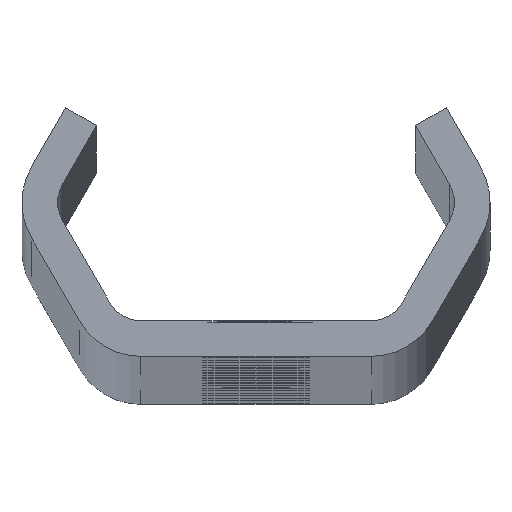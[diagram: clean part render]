
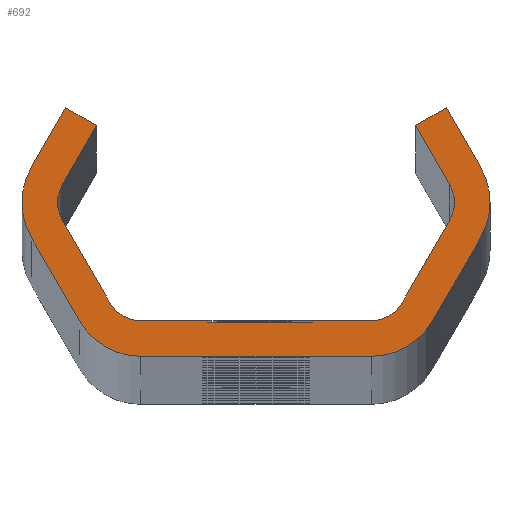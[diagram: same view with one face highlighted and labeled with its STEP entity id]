
A CAD part, top view. The second image highlights one B-rep face of the part: STEP entity #692.
In plain terms, the highlighted planar face has unit normal (0, 0, 1).
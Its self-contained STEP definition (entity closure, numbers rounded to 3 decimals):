
#692=ADVANCED_FACE('NONE',(#1922),#1923,.F.);
#1922=FACE_OUTER_BOUND('',#6201,.T.);
#1923=PLANE('',#6202);
#6201=EDGE_LOOP('',(#12679,#12680,#12681,#12682,#12683,#12684,#12685,#12686,#12687,#12688,#12689,#12690,#12691,#12692,#12693,#12694,#12695,#12696,#12697,#12698,#12699,#12700,#12701,#12702,#12703,#12704,#12705,#12706));
#6202=AXIS2_PLACEMENT_3D('',#12707,#12708,#12709);
#12679=ORIENTED_EDGE('',*,*,#16962,.F.);
#12680=ORIENTED_EDGE('',*,*,#16963,.T.);
#12681=ORIENTED_EDGE('',*,*,#16593,.T.);
#12682=ORIENTED_EDGE('',*,*,#16964,.T.);
#12683=ORIENTED_EDGE('',*,*,#16909,.T.);
#12684=ORIENTED_EDGE('',*,*,#16965,.T.);
#12685=ORIENTED_EDGE('',*,*,#16260,.T.);
#12686=ORIENTED_EDGE('',*,*,#16912,.T.);
#12687=ORIENTED_EDGE('',*,*,#16918,.T.);
#12688=ORIENTED_EDGE('',*,*,#16922,.T.);
#12689=ORIENTED_EDGE('',*,*,#16966,.T.);
#12690=ORIENTED_EDGE('',*,*,#16567,.T.);
#12691=ORIENTED_EDGE('',*,*,#16924,.T.);
#12692=ORIENTED_EDGE('',*,*,#16967,.T.);
#12693=ORIENTED_EDGE('',*,*,#16928,.T.);
#12694=ORIENTED_EDGE('',*,*,#16968,.T.);
#12695=ORIENTED_EDGE('',*,*,#16574,.T.);
#12696=ORIENTED_EDGE('',*,*,#16969,.T.);
#12697=ORIENTED_EDGE('',*,*,#16265,.T.);
#12698=ORIENTED_EDGE('',*,*,#16577,.T.);
#12699=ORIENTED_EDGE('',*,*,#16583,.T.);
#12700=ORIENTED_EDGE('',*,*,#16586,.T.);
#12701=ORIENTED_EDGE('',*,*,#16564,.T.);
#12702=ORIENTED_EDGE('',*,*,#16970,.T.);
#12703=ORIENTED_EDGE('',*,*,#16588,.T.);
#12704=ORIENTED_EDGE('',*,*,#16971,.T.);
#12705=ORIENTED_EDGE('',*,*,#16596,.T.);
#12706=ORIENTED_EDGE('',*,*,#16972,.T.);
#12707=CARTESIAN_POINT('',(0.0,0.0,2320.0));
#12708=DIRECTION('',(0.0,0.0,-1.0));
#12709=DIRECTION('',(0.0,-1.0,0.0));
#16260=EDGE_CURVE('NONE',#18117,#18121,#18123,.T.);
#16265=EDGE_CURVE('NONE',#18126,#18130,#18132,.T.);
#16564=EDGE_CURVE('NONE',#18670,#18668,#18671,.T.);
#16567=EDGE_CURVE('NONE',#18674,#18675,#18676,.T.);
#16574=EDGE_CURVE('NONE',#18688,#18686,#18689,.T.);
#16577=EDGE_CURVE('NONE',#18130,#18692,#18693,.T.);
#16583=EDGE_CURVE('NONE',#18692,#18700,#18702,.T.);
#16586=EDGE_CURVE('NONE',#18700,#18670,#18705,.T.);
#16588=EDGE_CURVE('NONE',#18707,#18708,#18709,.T.);
#16593=EDGE_CURVE('NONE',#18716,#18717,#18718,.T.);
#16596=EDGE_CURVE('NONE',#18723,#18721,#18724,.T.);
#16909=EDGE_CURVE('NONE',#19304,#19302,#19305,.T.);
#16912=EDGE_CURVE('NONE',#18121,#19308,#19309,.T.);
#16918=EDGE_CURVE('NONE',#19308,#19316,#19318,.T.);
#16922=EDGE_CURVE('NONE',#19316,#19322,#19324,.T.);
#16924=EDGE_CURVE('NONE',#18675,#19326,#19327,.T.);
#16928=EDGE_CURVE('NONE',#19332,#19333,#19334,.T.);
#16962=EDGE_CURVE('NONE',#19370,#19371,#19372,.T.);
#16963=EDGE_CURVE('NONE',#19370,#18716,#19373,.T.);
#16964=EDGE_CURVE('NONE',#18717,#19304,#19374,.T.);
#16965=EDGE_CURVE('NONE',#19302,#18117,#19375,.T.);
#16966=EDGE_CURVE('NONE',#19322,#18674,#19376,.T.);
#16967=EDGE_CURVE('NONE',#19326,#19332,#19377,.T.);
#16968=EDGE_CURVE('NONE',#19333,#18688,#19378,.T.);
#16969=EDGE_CURVE('NONE',#18686,#18126,#19379,.T.);
#16970=EDGE_CURVE('NONE',#18668,#18707,#19380,.T.);
#16971=EDGE_CURVE('NONE',#18708,#18723,#19381,.T.);
#16972=EDGE_CURVE('NONE',#18721,#19371,#19382,.T.);
#18117=VERTEX_POINT('',#20870);
#18121=VERTEX_POINT('NONE',#20875);
#18123=CIRCLE('',#20878,3.0);
#18126=VERTEX_POINT('',#20881);
#18130=VERTEX_POINT('NONE',#20886);
#18132=CIRCLE('',#20889,6.0);
#18668=VERTEX_POINT('NONE',#24107);
#18670=VERTEX_POINT('NONE',#24110);
#18671=CIRCLE('',#24111,3.0);
#18674=VERTEX_POINT('NONE',#24115);
#18675=VERTEX_POINT('NONE',#24116);
#18676=CIRCLE('',#24117,6.0);
#18686=VERTEX_POINT('NONE',#24130);
#18688=VERTEX_POINT('NONE',#24133);
#18689=LINE('',#24134,#24135);
#18692=VERTEX_POINT('NONE',#24139);
#18693=LINE('',#24140,#24141);
#18700=VERTEX_POINT('NONE',#24151);
#18702=LINE('',#24154,#24155);
#18705=LINE('',#24159,#24160);
#18707=VERTEX_POINT('NONE',#24162);
#18708=VERTEX_POINT('NONE',#24163);
#18709=LINE('',#24164,#24165);
#18716=VERTEX_POINT('NONE',#24175);
#18717=VERTEX_POINT('NONE',#24176);
#18718=LINE('',#24177,#24178);
#18721=VERTEX_POINT('NONE',#24182);
#18723=VERTEX_POINT('NONE',#24185);
#18724=LINE('',#24186,#24187);
#19302=VERTEX_POINT('NONE',#26317);
#19304=VERTEX_POINT('NONE',#26320);
#19305=LINE('',#26321,#26322);
#19308=VERTEX_POINT('NONE',#26326);
#19309=LINE('',#26327,#26328);
#19316=VERTEX_POINT('NONE',#26338);
#19318=LINE('',#26341,#26342);
#19322=VERTEX_POINT('NONE',#26347);
#19324=LINE('',#26350,#26351);
#19326=VERTEX_POINT('NONE',#26353);
#19327=LINE('',#26354,#26355);
#19332=VERTEX_POINT('NONE',#26362);
#19333=VERTEX_POINT('NONE',#26363);
#19334=LINE('',#26364,#26365);
#19370=VERTEX_POINT('NONE',#26404);
#19371=VERTEX_POINT('NONE',#26405);
#19372=LINE('',#26406,#26407);
#19373=LINE('',#26408,#26409);
#19374=CIRCLE('',#26410,3.0);
#19375=CIRCLE('',#26411,3.0);
#19376=CIRCLE('',#26412,6.0);
#19377=CIRCLE('',#26413,6.0);
#19378=CIRCLE('',#26414,6.0);
#19379=CIRCLE('',#26415,6.0);
#19380=CIRCLE('',#26416,3.0);
#19381=CIRCLE('',#26417,3.0);
#19382=LINE('',#26418,#26419);
#20870=CARTESIAN_POINT('',(-16.764,0.,2320.0));
#20875=CARTESIAN_POINT('',(-16.362,1.5,2320.0));
#20878=AXIS2_PLACEMENT_3D('',#31375,#31376,#31377);
#20881=CARTESIAN_POINT('',(19.764,0.,2320.0));
#20886=CARTESIAN_POINT('',(18.96,3.,2320.0));
#20889=AXIS2_PLACEMENT_3D('',#31383,#31384,#31385);
#24107=CARTESIAN_POINT('',(16.764,0.,2320.0));
#24110=CARTESIAN_POINT('',(16.362,1.5,2320.0));
#24111=AXIS2_PLACEMENT_3D('',#31682,#31683,#31684);
#24115=CARTESIAN_POINT('',(-19.764,0.,2320.0));
#24116=CARTESIAN_POINT('',(-18.96,-3.,2320.0));
#24117=AXIS2_PLACEMENT_3D('',#31686,#31687,#31688);
#24130=CARTESIAN_POINT('',(18.96,-3.,2320.0));
#24133=CARTESIAN_POINT('',(14.919,-10.,2320.0));
#24134=CARTESIAN_POINT('',(20.692,0.,2320.0));
#24135=VECTOR('',#31696,1000.0);
#24139=CARTESIAN_POINT('',(16.074,8.,2320.0));
#24140=CARTESIAN_POINT('',(16.074,8.,2320.0));
#24141=VECTOR('',#31698,1000.0);
#24151=CARTESIAN_POINT('',(13.475,6.5,2320.0));
#24154=CARTESIAN_POINT('',(13.475,6.5,2320.0));
#24155=VECTOR('',#31703,1000.0);
#24159=CARTESIAN_POINT('',(17.228,0.,2320.0));
#24160=VECTOR('',#31705,1000.0);
#24162=CARTESIAN_POINT('',(16.362,-1.5,2320.0));
#24163=CARTESIAN_POINT('',(12.321,-8.5,2320.0));
#24164=CARTESIAN_POINT('',(11.455,-10.0,2320.0));
#24165=VECTOR('',#31706,1000.0);
#24175=CARTESIAN_POINT('',(-4.063,-10.0,2320.0));
#24176=CARTESIAN_POINT('',(-9.723,-10.0,2320.0));
#24177=CARTESIAN_POINT('',(-11.455,-10.0,2320.0));
#24178=VECTOR('',#31710,1000.0);
#24182=CARTESIAN_POINT('',(-3.458,-10.0,2320.0));
#24185=CARTESIAN_POINT('',(9.723,-10.0,2320.0));
#24186=CARTESIAN_POINT('',(-11.455,-10.0,2320.0));
#24187=VECTOR('',#31713,1000.0);
#26317=CARTESIAN_POINT('',(-16.362,-1.5,2320.0));
#26320=CARTESIAN_POINT('',(-12.321,-8.5,2320.0));
#26321=CARTESIAN_POINT('',(-17.228,0.,2320.0));
#26322=VECTOR('',#32052,1000.0);
#26326=CARTESIAN_POINT('',(-13.475,6.5,2320.0));
#26327=CARTESIAN_POINT('',(-13.475,6.5,2320.0));
#26328=VECTOR('',#32054,1000.0);
#26338=CARTESIAN_POINT('',(-16.074,8.,2320.0));
#26341=CARTESIAN_POINT('',(-13.475,6.5,2320.0));
#26342=VECTOR('',#32059,1000.0);
#26347=CARTESIAN_POINT('',(-18.96,3.,2320.0));
#26350=CARTESIAN_POINT('',(-16.074,8.,2320.0));
#26351=VECTOR('',#32062,1000.0);
#26353=CARTESIAN_POINT('',(-14.919,-10.,2320.0));
#26354=CARTESIAN_POINT('',(-20.692,0.,2320.0));
#26355=VECTOR('',#32063,1000.0);
#26362=CARTESIAN_POINT('',(-9.723,-13.0,2320.0));
#26363=CARTESIAN_POINT('',(9.723,-13.0,2320.0));
#26364=CARTESIAN_POINT('',(-13.187,-13.0,2320.0));
#26365=VECTOR('',#32066,1000.0);
#26404=CARTESIAN_POINT('',(-4.063,-10.1,2320.0));
#26405=CARTESIAN_POINT('',(-3.458,-10.1,2320.0));
#26406=CARTESIAN_POINT('',(0.0,-10.1,2320.0));
#26407=VECTOR('',#32157,1000.0);
#26408=CARTESIAN_POINT('',(-4.063,0.,2320.0));
#26409=VECTOR('',#32158,1000.0);
#26410=AXIS2_PLACEMENT_3D('',#32159,#32160,#32161);
#26411=AXIS2_PLACEMENT_3D('',#32162,#32163,#32164);
#26412=AXIS2_PLACEMENT_3D('',#32165,#32166,#32167);
#26413=AXIS2_PLACEMENT_3D('',#32168,#32169,#32170);
#26414=AXIS2_PLACEMENT_3D('',#32171,#32172,#32173);
#26415=AXIS2_PLACEMENT_3D('',#32174,#32175,#32176);
#26416=AXIS2_PLACEMENT_3D('',#32177,#32178,#32179);
#26417=AXIS2_PLACEMENT_3D('',#32180,#32181,#32182);
#26418=CARTESIAN_POINT('',(-3.458,0.,2320.0));
#26419=VECTOR('',#32183,1000.0);
#31375=CARTESIAN_POINT('',(-13.764,0.,2320.0));
#31376=DIRECTION('',(0.0,0.0,-1.0));
#31377=DIRECTION('',(-1.0,0.0,0.0));
#31383=CARTESIAN_POINT('',(13.764,0.,2320.0));
#31384=DIRECTION('',(0.0,0.0,1.0));
#31385=DIRECTION('',(-1.0,0.0,0.0));
#31682=CARTESIAN_POINT('',(13.764,0.,2320.0));
#31683=DIRECTION('',(0.0,0.0,-1.0));
#31684=DIRECTION('',(-1.0,0.0,0.0));
#31686=CARTESIAN_POINT('',(-13.764,0.,2320.0));
#31687=DIRECTION('',(0.0,0.0,1.0));
#31688=DIRECTION('',(-1.0,0.0,0.0));
#31696=DIRECTION('',(0.5,0.866,-0.0));
#31698=DIRECTION('',(-0.5,0.866,-0.0));
#31703=DIRECTION('',(-0.866,-0.5,-0.0));
#31705=DIRECTION('',(0.5,-0.866,-0.0));
#31706=DIRECTION('',(-0.5,-0.866,-0.0));
#31710=DIRECTION('',(-1.0,0.,-0.0));
#31713=DIRECTION('',(-1.0,0.,-0.0));
#32052=DIRECTION('',(-0.5,0.866,-0.0));
#32054=DIRECTION('',(0.5,0.866,-0.0));
#32059=DIRECTION('',(-0.866,0.5,0.0));
#32062=DIRECTION('',(-0.5,-0.866,0.0));
#32063=DIRECTION('',(0.5,-0.866,0.0));
#32066=DIRECTION('',(1.0,0.0,0.0));
#32157=DIRECTION('',(1.0,0.0,0.0));
#32158=DIRECTION('',(0.,1.0,0.0));
#32159=CARTESIAN_POINT('',(-9.723,-7.0,2320.0));
#32160=DIRECTION('',(0.0,0.0,-1.0));
#32161=DIRECTION('',(-1.0,0.0,0.0));
#32162=CARTESIAN_POINT('',(-13.764,0.,2320.0));
#32163=DIRECTION('',(0.0,0.0,-1.0));
#32164=DIRECTION('',(-1.0,0.0,0.0));
#32165=CARTESIAN_POINT('',(-13.764,0.,2320.0));
#32166=DIRECTION('',(0.0,0.0,1.0));
#32167=DIRECTION('',(-1.0,0.0,0.0));
#32168=CARTESIAN_POINT('',(-9.723,-7.0,2320.0));
#32169=DIRECTION('',(0.0,0.0,1.0));
#32170=DIRECTION('',(-1.0,0.0,0.0));
#32171=CARTESIAN_POINT('',(9.723,-7.0,2320.0));
#32172=DIRECTION('',(0.0,0.0,1.0));
#32173=DIRECTION('',(-1.0,0.,0.0));
#32174=CARTESIAN_POINT('',(13.764,0.,2320.0));
#32175=DIRECTION('',(0.0,0.0,1.0));
#32176=DIRECTION('',(-1.0,0.0,0.0));
#32177=CARTESIAN_POINT('',(13.764,0.,2320.0));
#32178=DIRECTION('',(0.0,0.0,-1.0));
#32179=DIRECTION('',(-1.0,0.0,0.0));
#32180=CARTESIAN_POINT('',(9.723,-7.0,2320.0));
#32181=DIRECTION('',(0.0,0.0,-1.0));
#32182=DIRECTION('',(-1.0,0.0,0.0));
#32183=DIRECTION('',(0.,-1.0,0.0));
